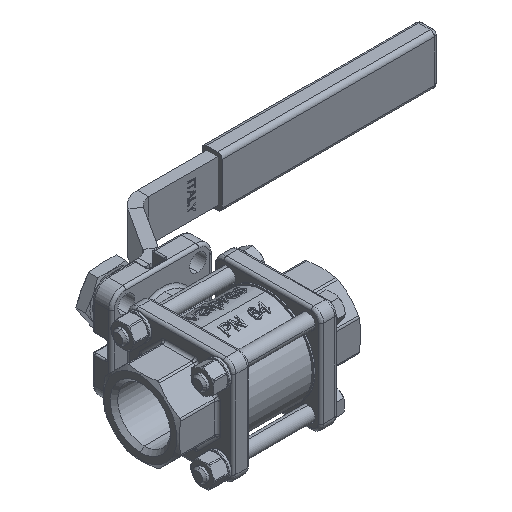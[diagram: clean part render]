
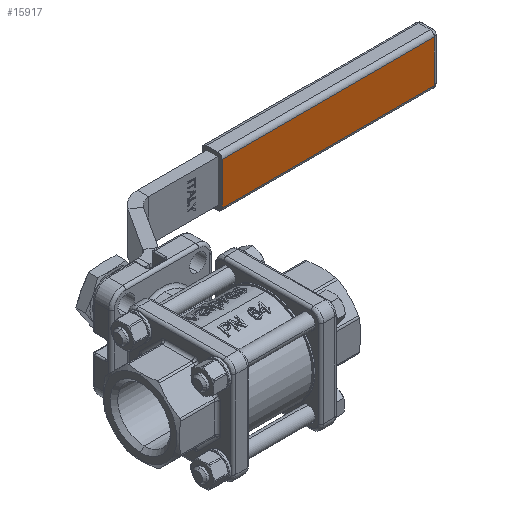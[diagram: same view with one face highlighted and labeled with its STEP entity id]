
A CAD part, isometric view. The second image highlights one B-rep face of the part: STEP entity #15917.
In plain terms, the highlighted planar face has unit normal (0, -1, 0).
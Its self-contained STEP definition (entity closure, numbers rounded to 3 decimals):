
#8168 = DIRECTION ( 'NONE',  ( 0., 0., -1. ) ) ;
#8169 = VECTOR ( 'NONE', #8168, 1000. ) ;
#8170 = CARTESIAN_POINT ( 'NONE',  ( 129.504, 57.547, 0. ) ) ;
#8175 = LINE ( 'NONE', #8170, #8169 ) ;
#8185 = CARTESIAN_POINT ( 'NONE',  ( 129.504, 57.547, 7.5 ) ) ;
#8257 = DIRECTION ( 'NONE',  ( 0., 1., 0. ) ) ;
#8258 = CARTESIAN_POINT ( 'NONE',  ( 54.004, 57.547, -7.5 ) ) ;
#8259 = AXIS2_PLACEMENT_3D ( 'NONE', #8258, #8257, #8327 ) ;
#8260 = PLANE ( 'NONE',  #8259 ) ;
#8261 = FACE_OUTER_BOUND ( 'NONE', #15964, .T. ) ;
#8275 = CARTESIAN_POINT ( 'NONE',  ( 129.504, 57.547, -7.5 ) ) ;
#8318 = DIRECTION ( 'NONE',  ( 1., 0., 0. ) ) ;
#8319 = VECTOR ( 'NONE', #8318, 1000. ) ;
#8320 = CARTESIAN_POINT ( 'NONE',  ( 91.754, 57.547, -7.5 ) ) ;
#8321 = LINE ( 'NONE', #8320, #8319 ) ;
#8322 = CARTESIAN_POINT ( 'NONE',  ( 54.004, 57.547, -7.5 ) ) ;
#8323 = DIRECTION ( 'NONE',  ( 0., 0., -1. ) ) ;
#8324 = VECTOR ( 'NONE', #8323, 1000. ) ;
#8325 = CARTESIAN_POINT ( 'NONE',  ( 54.004, 57.547, 0. ) ) ;
#8326 = LINE ( 'NONE', #8325, #8324 ) ;
#8327 = DIRECTION ( 'NONE',  ( 0., 0., 1. ) ) ;
#8354 = DIRECTION ( 'NONE',  ( 1., 0., 0. ) ) ;
#8355 = VECTOR ( 'NONE', #8354, 1000. ) ;
#8356 = CARTESIAN_POINT ( 'NONE',  ( 91.754, 57.547, 7.5 ) ) ;
#8357 = LINE ( 'NONE', #8356, #8355 ) ;
#8358 = CARTESIAN_POINT ( 'NONE',  ( 54.004, 57.547, 7.5 ) ) ;
#15804 = VERTEX_POINT ( 'NONE', #8185 ) ;
#15818 = EDGE_CURVE ( 'NONE', #15804, #15895, #8175, .T. ) ;
#15895 = VERTEX_POINT ( 'NONE', #8275 ) ;
#15917 = ADVANCED_FACE ( 'NONE', ( #8261 ), #8260, .F. ) ;
#15918 = ORIENTED_EDGE ( 'NONE', *, *, #15818, .F. ) ;
#15919 = ORIENTED_EDGE ( 'NONE', *, *, #15960, .F. ) ;
#15920 = ORIENTED_EDGE ( 'NONE', *, *, #15921, .T. ) ;
#15921 = EDGE_CURVE ( 'NONE', #15956, #15924, #8326, .T. ) ;
#15924 = VERTEX_POINT ( 'NONE', #8322 ) ;
#15926 = ORIENTED_EDGE ( 'NONE', *, *, #15928, .T. ) ;
#15928 = EDGE_CURVE ( 'NONE', #15924, #15895, #8321, .T. ) ;
#15956 = VERTEX_POINT ( 'NONE', #8358 ) ;
#15960 = EDGE_CURVE ( 'NONE', #15956, #15804, #8357, .T. ) ;
#15964 = EDGE_LOOP ( 'NONE', ( #15918, #15919, #15920, #15926 ) ) ;
